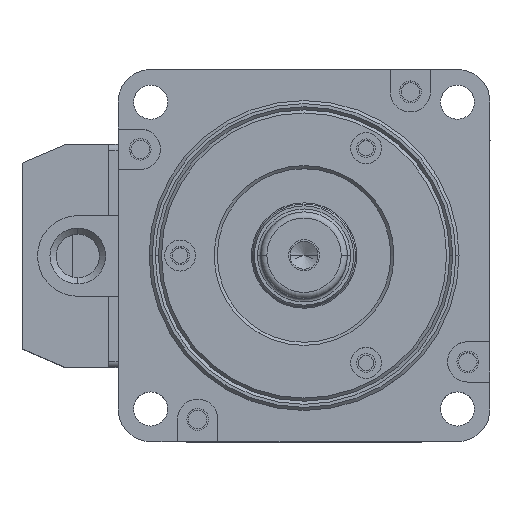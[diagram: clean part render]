
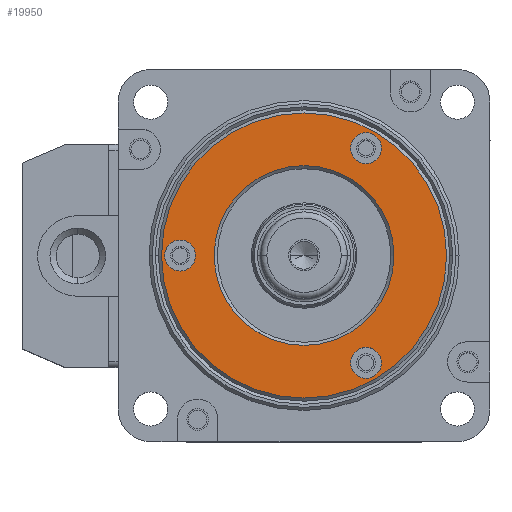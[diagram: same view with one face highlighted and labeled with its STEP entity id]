
A CAD part, top view. The second image highlights one B-rep face of the part: STEP entity #19950.
In plain terms, the highlighted planar face has unit normal (0, 0, 1).
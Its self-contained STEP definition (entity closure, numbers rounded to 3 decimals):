
#19431=CARTESIAN_POINT('',(0.,-20.,4.5));
#19432=DIRECTION('',(0.,0.,1.));
#19433=DIRECTION('',(-1.,0.,0.));
#19434=AXIS2_PLACEMENT_3D('',#19431,#19432,#19433);
#19436=CARTESIAN_POINT('',(0.,-20.,4.5));
#19437=DIRECTION('',(0.,0.,1.));
#19438=DIRECTION('',(1.,0.,0.));
#19439=AXIS2_PLACEMENT_3D('',#19436,#19437,#19438);
#19441=CARTESIAN_POINT('',(17.321,10.,4.5));
#19442=DIRECTION('',(0.,0.,1.));
#19443=DIRECTION('',(0.5,-0.866,0.));
#19444=AXIS2_PLACEMENT_3D('',#19441,#19442,#19443);
#19446=CARTESIAN_POINT('',(17.321,10.,4.5));
#19447=DIRECTION('',(0.,0.,1.));
#19448=DIRECTION('',(-0.5,0.866,0.));
#19449=AXIS2_PLACEMENT_3D('',#19446,#19447,#19448);
#19451=CARTESIAN_POINT('',(-17.321,10.,4.5));
#19452=DIRECTION('',(0.,0.,1.));
#19453=DIRECTION('',(0.5,0.866,0.));
#19454=AXIS2_PLACEMENT_3D('',#19451,#19452,#19453);
#19456=CARTESIAN_POINT('',(-17.321,10.,4.5));
#19457=DIRECTION('',(0.,0.,1.));
#19458=DIRECTION('',(-0.5,-0.866,0.));
#19459=AXIS2_PLACEMENT_3D('',#19456,#19457,#19458);
#19461=CARTESIAN_POINT('',(0.,0.,4.5));
#19462=DIRECTION('',(0.,0.,1.));
#19463=DIRECTION('',(-1.,0.,0.));
#19464=AXIS2_PLACEMENT_3D('',#19461,#19462,#19463);
#19466=CARTESIAN_POINT('',(0.,0.,
4.5));
#19467=DIRECTION('',(0.,0.,1.));
#19468=DIRECTION('',(1.,0.,0.));
#19469=AXIS2_PLACEMENT_3D('',#19466,#19467,#19468);
#19471=CARTESIAN_POINT('',(0.,0.,
4.5));
#19472=DIRECTION('',(0.,0.,-1.));
#19473=DIRECTION('',(0.,1.,0.));
#19474=AXIS2_PLACEMENT_3D('',#19471,#19472,#19473);
#19476=CARTESIAN_POINT('',(0.,0.,4.5));
#19477=DIRECTION('',(0.,0.,-1.));
#19478=DIRECTION('',(0.,-1.,0.));
#19479=AXIS2_PLACEMENT_3D('',#19476,#19477,#19478);
#19831=CARTESIAN_POINT('',(-2.5,-20.,4.5));
#19832=CARTESIAN_POINT('',(2.5,-20.,4.5));
#19833=VERTEX_POINT('',#19831);
#19834=VERTEX_POINT('',#19832);
#19847=CARTESIAN_POINT('',(18.571,7.835,4.5));
#19848=CARTESIAN_POINT('',(16.071,12.165,4.5));
#19849=VERTEX_POINT('',#19847);
#19850=VERTEX_POINT('',#19848);
#19855=CARTESIAN_POINT('',(-16.071,12.165,4.5));
#19856=CARTESIAN_POINT('',(-18.571,7.835,4.5));
#19857=VERTEX_POINT('',#19855);
#19858=VERTEX_POINT('',#19856);
#19883=CARTESIAN_POINT('',(-23.,0.,4.5));
#19884=CARTESIAN_POINT('',(23.,0.,4.5));
#19885=VERTEX_POINT('',#19883);
#19886=VERTEX_POINT('',#19884);
#19891=CARTESIAN_POINT('',(0.,14.5,4.5));
#19892=CARTESIAN_POINT('',(0.,-14.5,4.5));
#19893=VERTEX_POINT('',#19891);
#19894=VERTEX_POINT('',#19892);
#19915=CARTESIAN_POINT('',(0.,0.,4.5));
#19916=DIRECTION('',(0.,0.,1.));
#19917=DIRECTION('',(1.,0.,0.));
#19918=AXIS2_PLACEMENT_3D('',#19915,#19916,#19917);
#19919=PLANE('',#19918);
#19921=ORIENTED_EDGE('',*,*,#19920,.F.);
#19923=ORIENTED_EDGE('',*,*,#19922,.F.);
#19924=EDGE_LOOP('',(#19921,#19923));
#19925=FACE_OUTER_BOUND('',#19924,.F.);
#19927=ORIENTED_EDGE('',*,*,#19926,.T.);
#19929=ORIENTED_EDGE('',*,*,#19928,.T.);
#19930=EDGE_LOOP('',(#19927,#19929));
#19931=FACE_BOUND('',#19930,.F.);
#19933=ORIENTED_EDGE('',*,*,#19932,.T.);
#19935=ORIENTED_EDGE('',*,*,#19934,.T.);
#19936=EDGE_LOOP('',(#19933,#19935));
#19937=FACE_BOUND('',#19936,.F.);
#19939=ORIENTED_EDGE('',*,*,#19938,.T.);
#19941=ORIENTED_EDGE('',*,*,#19940,.T.);
#19942=EDGE_LOOP('',(#19939,#19941));
#19943=FACE_BOUND('',#19942,.F.);
#19945=ORIENTED_EDGE('',*,*,#19944,.F.);
#19947=ORIENTED_EDGE('',*,*,#19946,.F.);
#19948=EDGE_LOOP('',(#19945,#19947));
#19949=FACE_BOUND('',#19948,.F.);
#19435=CIRCLE('',#19434,2.5);
#19440=CIRCLE('',#19439,2.5);
#19445=CIRCLE('',#19444,2.5);
#19450=CIRCLE('',#19449,2.5);
#19455=CIRCLE('',#19454,2.5);
#19460=CIRCLE('',#19459,2.5);
#19465=CIRCLE('',#19464,23.);
#19470=CIRCLE('',#19469,23.);
#19475=CIRCLE('',#19474,14.5);
#19480=CIRCLE('',#19479,14.5);
#19920=EDGE_CURVE('',#19885,#19886,#19465,.T.);
#19922=EDGE_CURVE('',#19886,#19885,#19470,.T.);
#19926=EDGE_CURVE('',#19849,#19850,#19445,.T.);
#19928=EDGE_CURVE('',#19850,#19849,#19450,.T.);
#19932=EDGE_CURVE('',#19857,#19858,#19455,.T.);
#19934=EDGE_CURVE('',#19858,#19857,#19460,.T.);
#19938=EDGE_CURVE('',#19833,#19834,#19435,.T.);
#19940=EDGE_CURVE('',#19834,#19833,#19440,.T.);
#19944=EDGE_CURVE('',#19893,#19894,#19475,.T.);
#19946=EDGE_CURVE('',#19894,#19893,#19480,.T.);
#19950=ADVANCED_FACE('',(#19925,#19931,#19937,#19943,#19949),#19919,.T.);
